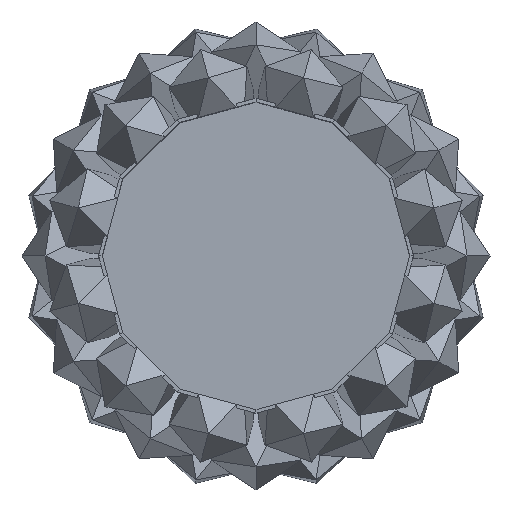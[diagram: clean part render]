
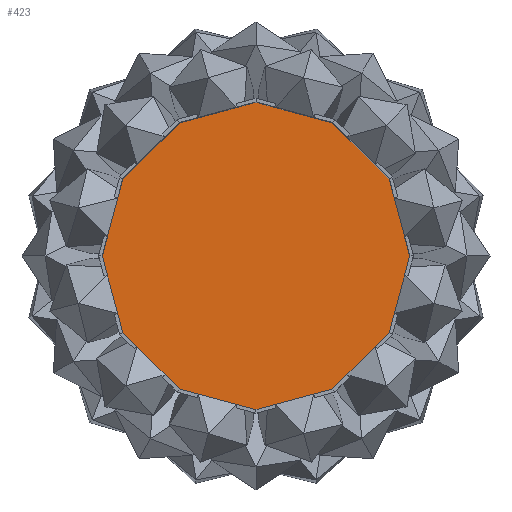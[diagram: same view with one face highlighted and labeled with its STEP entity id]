
A CAD part, top view. The second image highlights one B-rep face of the part: STEP entity #423.
In plain terms, the highlighted planar face has unit normal (0, 0, 1).
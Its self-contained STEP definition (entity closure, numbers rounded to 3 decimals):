
#423=ADVANCED_FACE('',(#833),#6045,.T.);
#833=FACE_OUTER_BOUND('',#1243,.T.);
#1243=EDGE_LOOP('',(#3152,#3153,#3154,#3155,#3156,#3157,#3158,#3159,#3160,
#3161,#3162,#3163));
#3152=ORIENTED_EDGE('',*,*,#3604,.F.);
#3153=ORIENTED_EDGE('',*,*,#3648,.F.);
#3154=ORIENTED_EDGE('',*,*,#3689,.F.);
#3155=ORIENTED_EDGE('',*,*,#3256,.F.);
#3156=ORIENTED_EDGE('',*,*,#3300,.F.);
#3157=ORIENTED_EDGE('',*,*,#3344,.F.);
#3158=ORIENTED_EDGE('',*,*,#3388,.F.);
#3159=ORIENTED_EDGE('',*,*,#3432,.F.);
#3160=ORIENTED_EDGE('',*,*,#3476,.F.);
#3161=ORIENTED_EDGE('',*,*,#3520,.F.);
#3162=ORIENTED_EDGE('',*,*,#3561,.F.);
#3163=ORIENTED_EDGE('',*,*,#3209,.F.);
#3209=EDGE_CURVE('',#5115,#5114,#4158,.T.);
#3256=EDGE_CURVE('',#5147,#5146,#4194,.T.);
#3300=EDGE_CURVE('',#5175,#5147,#4227,.T.);
#3344=EDGE_CURVE('',#5203,#5175,#4260,.T.);
#3388=EDGE_CURVE('',#5231,#5203,#4293,.T.);
#3432=EDGE_CURVE('',#5259,#5231,#4326,.T.);
#3476=EDGE_CURVE('',#5287,#5259,#4359,.T.);
#3520=EDGE_CURVE('',#5315,#5287,#4392,.T.);
#3561=EDGE_CURVE('',#5114,#5315,#4422,.T.);
#3604=EDGE_CURVE('',#5367,#5115,#4454,.T.);
#3648=EDGE_CURVE('',#5395,#5367,#4487,.T.);
#3689=EDGE_CURVE('',#5146,#5395,#4517,.T.);
#4158=B_SPLINE_CURVE_WITH_KNOTS('',1,(#8048,#8049),.UNSPECIFIED.,.F.,.F.,
(2,2),(0.,35.827),.UNSPECIFIED.);
#4194=B_SPLINE_CURVE_WITH_KNOTS('',1,(#8178,#8179),.UNSPECIFIED.,.F.,.F.,
(2,2),(0.,35.827),.UNSPECIFIED.);
#4227=B_SPLINE_CURVE_WITH_KNOTS('',1,(#8302,#8303),.UNSPECIFIED.,.F.,.F.,
(2,2),(0.,35.827),.UNSPECIFIED.);
#4260=B_SPLINE_CURVE_WITH_KNOTS('',1,(#8426,#8427),.UNSPECIFIED.,.F.,.F.,
(2,2),(0.,35.827),.UNSPECIFIED.);
#4293=B_SPLINE_CURVE_WITH_KNOTS('',1,(#8550,#8551),.UNSPECIFIED.,.F.,.F.,
(2,2),(0.,35.827),.UNSPECIFIED.);
#4326=B_SPLINE_CURVE_WITH_KNOTS('',1,(#8674,#8675),.UNSPECIFIED.,.F.,.F.,
(2,2),(0.,35.827),.UNSPECIFIED.);
#4359=B_SPLINE_CURVE_WITH_KNOTS('',1,(#8798,#8799),.UNSPECIFIED.,.F.,.F.,
(2,2),(0.,35.827),.UNSPECIFIED.);
#4392=B_SPLINE_CURVE_WITH_KNOTS('',1,(#8922,#8923),.UNSPECIFIED.,.F.,.F.,
(2,2),(0.,35.827),.UNSPECIFIED.);
#4422=B_SPLINE_CURVE_WITH_KNOTS('',1,(#9038,#9039),.UNSPECIFIED.,.F.,.F.,
(2,2),(0.,35.827),.UNSPECIFIED.);
#4454=B_SPLINE_CURVE_WITH_KNOTS('',1,(#9160,#9161),.UNSPECIFIED.,.F.,.F.,
(2,2),(0.,35.827),.UNSPECIFIED.);
#4487=B_SPLINE_CURVE_WITH_KNOTS('',1,(#9284,#9285),.UNSPECIFIED.,.F.,.F.,
(2,2),(0.,35.827),.UNSPECIFIED.);
#4517=B_SPLINE_CURVE_WITH_KNOTS('',1,(#9400,#9401),.UNSPECIFIED.,.F.,.F.,
(2,2),(0.,35.827),.UNSPECIFIED.);
#5114=VERTEX_POINT('',#7400);
#5115=VERTEX_POINT('',#7401);
#5146=VERTEX_POINT('',#7432);
#5147=VERTEX_POINT('',#7433);
#5175=VERTEX_POINT('',#7461);
#5203=VERTEX_POINT('',#7489);
#5231=VERTEX_POINT('',#7517);
#5259=VERTEX_POINT('',#7545);
#5287=VERTEX_POINT('',#7573);
#5315=VERTEX_POINT('',#7601);
#5367=VERTEX_POINT('',#7653);
#5395=VERTEX_POINT('',#7681);
#6045=PLANE('',#6543);
#6543=AXIS2_PLACEMENT_3D('',#7369,#6956,$);
#6956=DIRECTION('',(0.,0.,1.));
#7369=CARTESIAN_POINT('',(303.991,591.758,17.465));
#7400=CARTESIAN_POINT('',(242.16,651.698,17.465));
#7401=CARTESIAN_POINT('',(207.554,660.971,17.465));
#7432=CARTESIAN_POINT('',(138.341,591.758,17.465));
#7433=CARTESIAN_POINT('',(147.614,557.152,17.465));
#7461=CARTESIAN_POINT('',(172.948,531.818,17.465));
#7489=CARTESIAN_POINT('',(207.554,522.546,17.465));
#7517=CARTESIAN_POINT('',(242.16,531.818,17.465));
#7545=CARTESIAN_POINT('',(267.494,557.152,17.465));
#7573=CARTESIAN_POINT('',(276.766,591.758,17.465));
#7601=CARTESIAN_POINT('',(267.494,626.364,17.465));
#7653=CARTESIAN_POINT('',(172.948,651.698,17.465));
#7681=CARTESIAN_POINT('',(147.614,626.364,17.465));
#8048=CARTESIAN_POINT('',(207.554,660.971,17.465));
#8049=CARTESIAN_POINT('',(242.16,651.698,17.465));
#8178=CARTESIAN_POINT('',(147.614,557.152,17.465));
#8179=CARTESIAN_POINT('',(138.341,591.758,17.465));
#8302=CARTESIAN_POINT('',(172.948,531.818,17.465));
#8303=CARTESIAN_POINT('',(147.614,557.152,17.465));
#8426=CARTESIAN_POINT('',(207.554,522.546,17.465));
#8427=CARTESIAN_POINT('',(172.948,531.818,17.465));
#8550=CARTESIAN_POINT('',(242.16,531.818,17.465));
#8551=CARTESIAN_POINT('',(207.554,522.546,17.465));
#8674=CARTESIAN_POINT('',(267.494,557.152,17.465));
#8675=CARTESIAN_POINT('',(242.16,531.818,17.465));
#8798=CARTESIAN_POINT('',(276.766,591.758,17.465));
#8799=CARTESIAN_POINT('',(267.494,557.152,17.465));
#8922=CARTESIAN_POINT('',(267.494,626.364,17.465));
#8923=CARTESIAN_POINT('',(276.766,591.758,17.465));
#9038=CARTESIAN_POINT('',(242.16,651.698,17.465));
#9039=CARTESIAN_POINT('',(267.494,626.364,17.465));
#9160=CARTESIAN_POINT('',(172.948,651.698,17.465));
#9161=CARTESIAN_POINT('',(207.554,660.971,17.465));
#9284=CARTESIAN_POINT('',(147.614,626.364,17.465));
#9285=CARTESIAN_POINT('',(172.948,651.698,17.465));
#9400=CARTESIAN_POINT('',(138.341,591.758,17.465));
#9401=CARTESIAN_POINT('',(147.614,626.364,17.465));
